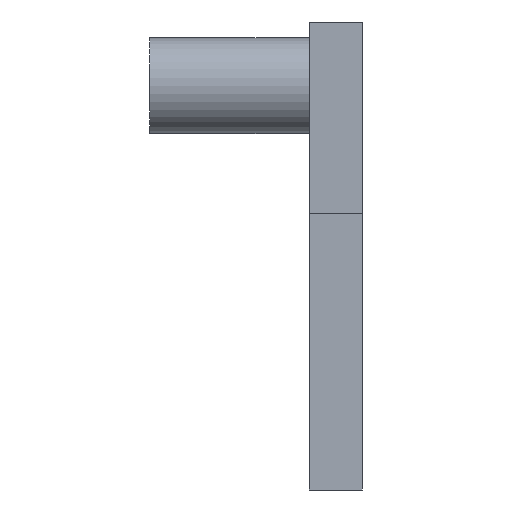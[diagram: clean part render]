
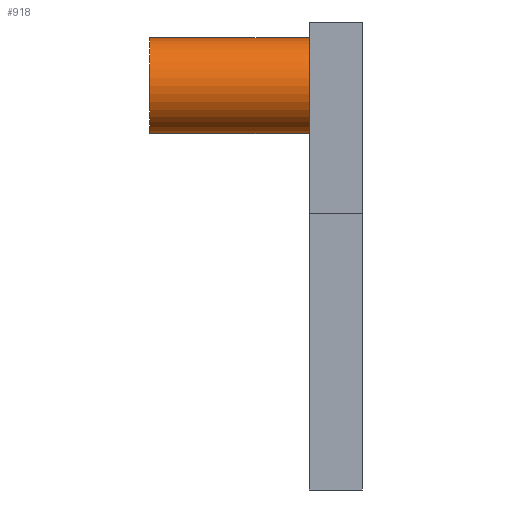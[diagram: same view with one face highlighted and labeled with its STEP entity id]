
A CAD part, front view. The second image highlights one B-rep face of the part: STEP entity #918.
In plain terms, the highlighted cylindrical face has radius 4.5 mm (diameter 9 mm), a full revolution.
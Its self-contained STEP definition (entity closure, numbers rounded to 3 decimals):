
#44 = PLANE('',#45);
#45 = AXIS2_PLACEMENT_3D('',#46,#47,#48);
#46 = CARTESIAN_POINT('',(42.,0.,-91.));
#47 = DIRECTION('',(1.,0.,0.));
#48 = DIRECTION('',(0.,0.,1.));
#363 = EDGE_CURVE('',#364,#364,#366,.T.);
#364 = VERTEX_POINT('',#365);
#365 = CARTESIAN_POINT('',(42.,34.5,-66.));
#366 = SURFACE_CURVE('',#367,(#372,#379),.PCURVE_S1.);
#367 = CIRCLE('',#368,4.5);
#368 = AXIS2_PLACEMENT_3D('',#369,#370,#371);
#369 = CARTESIAN_POINT('',(42.,39.,-66.));
#370 = DIRECTION('',(1.,0.,0.));
#371 = DIRECTION('',(0.,-1.,0.));
#372 = PCURVE('',#44,#373);
#373 = DEFINITIONAL_REPRESENTATION('',(#374),#378);
#374 = CIRCLE('',#375,4.5);
#375 = AXIS2_PLACEMENT_2D('',#376,#377);
#376 = CARTESIAN_POINT('',(25.,-39.));
#377 = DIRECTION('',(0.,1.));
#378 = ( GEOMETRIC_REPRESENTATION_CONTEXT(2) 
PARAMETRIC_REPRESENTATION_CONTEXT() REPRESENTATION_CONTEXT('2D SPACE',''
  ) );
#379 = PCURVE('',#380,#385);
#380 = CYLINDRICAL_SURFACE('',#381,4.5);
#381 = AXIS2_PLACEMENT_3D('',#382,#383,#384);
#382 = CARTESIAN_POINT('',(27.,39.,-66.));
#383 = DIRECTION('',(-1.,-0.,-0.));
#384 = DIRECTION('',(0.,-1.,0.));
#385 = DEFINITIONAL_REPRESENTATION('',(#386),#390);
#386 = LINE('',#387,#388);
#387 = CARTESIAN_POINT('',(-0.,-15.));
#388 = VECTOR('',#389,1.);
#389 = DIRECTION('',(-1.,0.));
#390 = ( GEOMETRIC_REPRESENTATION_CONTEXT(2) 
PARAMETRIC_REPRESENTATION_CONTEXT() REPRESENTATION_CONTEXT('2D SPACE',''
  ) );
#918 = ADVANCED_FACE('',(#919),#380,.T.);
#919 = FACE_BOUND('',#920,.F.);
#920 = EDGE_LOOP('',(#921,#944,#945,#946));
#921 = ORIENTED_EDGE('',*,*,#922,.T.);
#922 = EDGE_CURVE('',#923,#364,#925,.T.);
#923 = VERTEX_POINT('',#924);
#924 = CARTESIAN_POINT('',(27.,34.5,-66.));
#925 = SEAM_CURVE('',#926,(#930,#937),.PCURVE_S1.);
#926 = LINE('',#927,#928);
#927 = CARTESIAN_POINT('',(27.,34.5,-66.));
#928 = VECTOR('',#929,1.);
#929 = DIRECTION('',(1.,0.,0.));
#930 = PCURVE('',#380,#931);
#931 = DEFINITIONAL_REPRESENTATION('',(#932),#936);
#932 = LINE('',#933,#934);
#933 = CARTESIAN_POINT('',(-0.,0.));
#934 = VECTOR('',#935,1.);
#935 = DIRECTION('',(-0.,-1.));
#936 = ( GEOMETRIC_REPRESENTATION_CONTEXT(2) 
PARAMETRIC_REPRESENTATION_CONTEXT() REPRESENTATION_CONTEXT('2D SPACE',''
  ) );
#937 = PCURVE('',#380,#938);
#938 = DEFINITIONAL_REPRESENTATION('',(#939),#943);
#939 = LINE('',#940,#941);
#940 = CARTESIAN_POINT('',(-6.283,0.));
#941 = VECTOR('',#942,1.);
#942 = DIRECTION('',(-0.,-1.));
#943 = ( GEOMETRIC_REPRESENTATION_CONTEXT(2) 
PARAMETRIC_REPRESENTATION_CONTEXT() REPRESENTATION_CONTEXT('2D SPACE',''
  ) );
#944 = ORIENTED_EDGE('',*,*,#363,.T.);
#945 = ORIENTED_EDGE('',*,*,#922,.F.);
#946 = ORIENTED_EDGE('',*,*,#947,.F.);
#947 = EDGE_CURVE('',#923,#923,#948,.T.);
#948 = SURFACE_CURVE('',#949,(#954,#961),.PCURVE_S1.);
#949 = CIRCLE('',#950,4.5);
#950 = AXIS2_PLACEMENT_3D('',#951,#952,#953);
#951 = CARTESIAN_POINT('',(27.,39.,-66.));
#952 = DIRECTION('',(1.,0.,0.));
#953 = DIRECTION('',(0.,-1.,0.));
#954 = PCURVE('',#380,#955);
#955 = DEFINITIONAL_REPRESENTATION('',(#956),#960);
#956 = LINE('',#957,#958);
#957 = CARTESIAN_POINT('',(-0.,0.));
#958 = VECTOR('',#959,1.);
#959 = DIRECTION('',(-1.,0.));
#960 = ( GEOMETRIC_REPRESENTATION_CONTEXT(2) 
PARAMETRIC_REPRESENTATION_CONTEXT() REPRESENTATION_CONTEXT('2D SPACE',''
  ) );
#961 = PCURVE('',#962,#967);
#962 = PLANE('',#963);
#963 = AXIS2_PLACEMENT_3D('',#964,#965,#966);
#964 = CARTESIAN_POINT('',(27.,39.,-66.));
#965 = DIRECTION('',(1.,0.,0.));
#966 = DIRECTION('',(0.,0.,1.));
#967 = DEFINITIONAL_REPRESENTATION('',(#968),#972);
#968 = CIRCLE('',#969,4.5);
#969 = AXIS2_PLACEMENT_2D('',#970,#971);
#970 = CARTESIAN_POINT('',(0.,0.));
#971 = DIRECTION('',(0.,1.));
#972 = ( GEOMETRIC_REPRESENTATION_CONTEXT(2) 
PARAMETRIC_REPRESENTATION_CONTEXT() REPRESENTATION_CONTEXT('2D SPACE',''
  ) );
